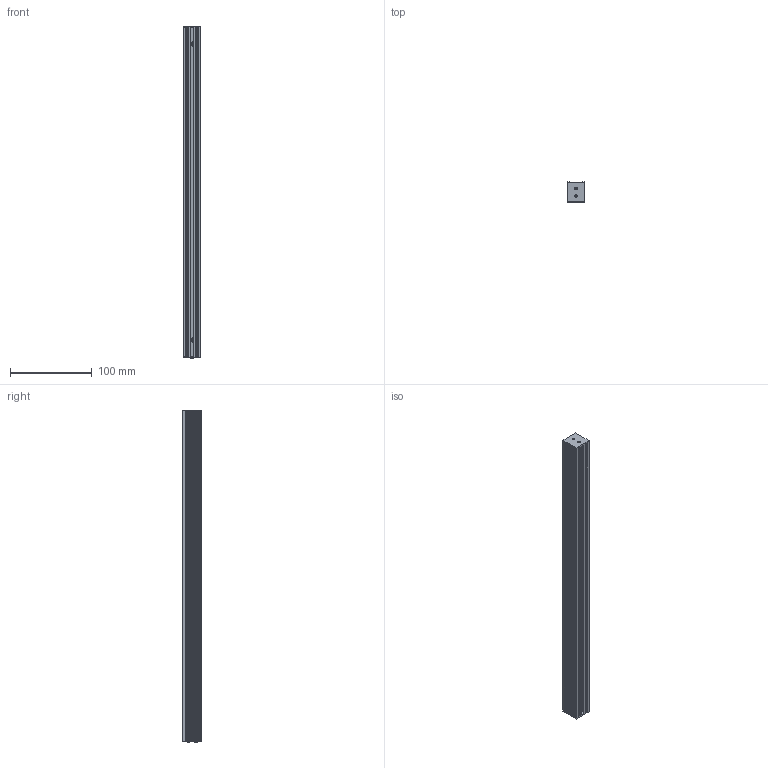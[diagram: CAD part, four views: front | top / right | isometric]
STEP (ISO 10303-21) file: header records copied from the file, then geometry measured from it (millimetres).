
FILE_DESCRIPTION((''),'2;1');
FILE_NAME('DSL-111-22','2020-03-23T',('ASUS'),(''),'PRO/ENGINEER BY PARAMETRIC TECHNOLOGY CORPORATION, 2008380','PRO/ENGINEER BY PARAMETRIC TECHNOLOGY CORPORATION, 2008380','');
FILE_SCHEMA(('CONFIG_CONTROL_DESIGN'));
Length unit declared in the file: millimetre
Products named in the file (1): DSL-111-22
Bounding box: 22 x 24.02 x 406 mm (x, y, z)
Volume: 187148.7 mm3; surface area: 72031.6 mm2
Topology: 1 solids, 5 shells, 279 faces, 712 edges, 464 vertices
Faces by surface type: plane 173, cylinder 86, cone 20
Entity records: 8401 total; most frequent: CARTESIAN_POINT 1460, DIRECTION 1452, ORIENTED_EDGE 1392, EDGE_CURVE 704, VECTOR 508, LINE 508, AXIS2_PLACEMENT_3D 472, VERTEX_POINT 464
